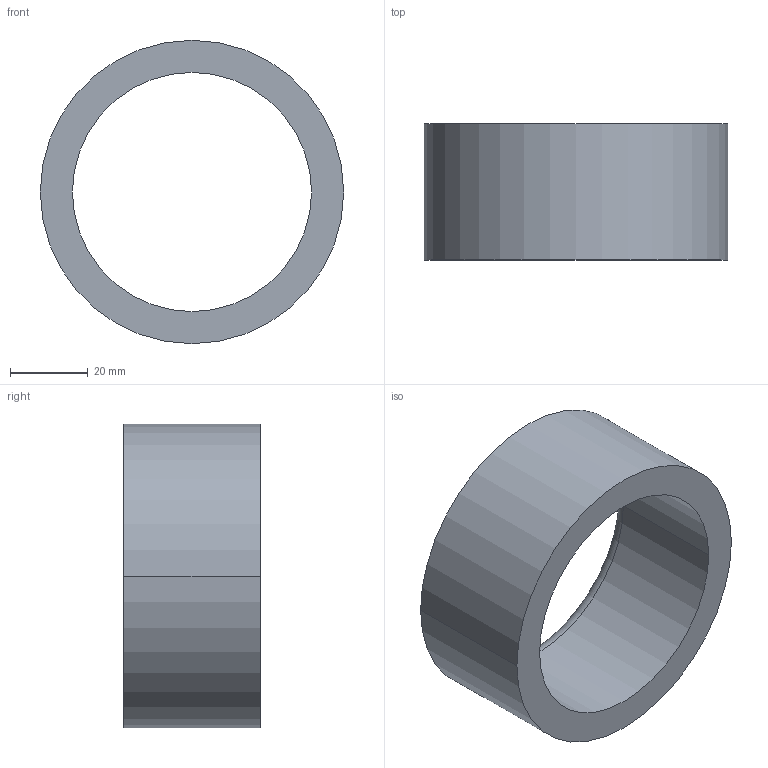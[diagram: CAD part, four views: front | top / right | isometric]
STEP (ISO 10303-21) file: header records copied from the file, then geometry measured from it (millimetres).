
FILE_DESCRIPTION (( 'STEP AP203' ), '1' );
FILE_NAME ('30800.WPP78M61.5.step', '2019-01-23T23:04:34', ( '' ), ( '' ), 'SwSTEP 2.0', 'SolidWorks 2017', '' );
FILE_SCHEMA (( 'CONFIG_CONTROL_DESIGN' ));
Length unit declared in the file: millimetre
Products named in the file (1): 30800.WPP78M61.5
Bounding box: 78 x 35 x 78 mm (x, y, z)
Volume: 62590 mm3; surface area: 18629.8 mm2
Topology: 1 solids, 1 shells, 8 faces, 16 edges, 10 vertices
Faces by surface type: cylinder 4, torus 2, plane 2
Entity records: 297 total; most frequent: DIRECTION 46, CARTESIAN_POINT 35, ORIENTED_EDGE 32, AXIS2_PLACEMENT_3D 21, EDGE_CURVE 16, CIRCLE 12, EDGE_LOOP 10, VERTEX_POINT 10
